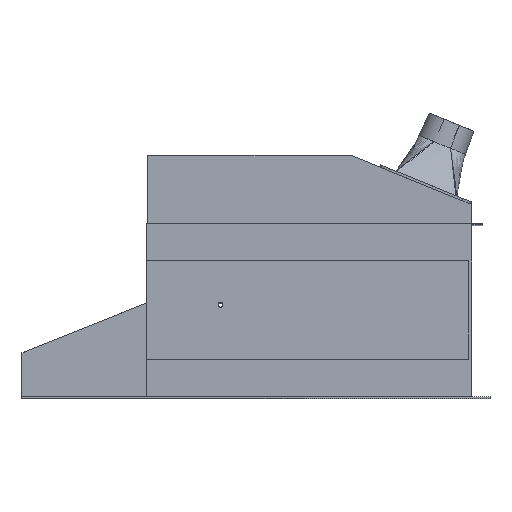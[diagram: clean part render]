
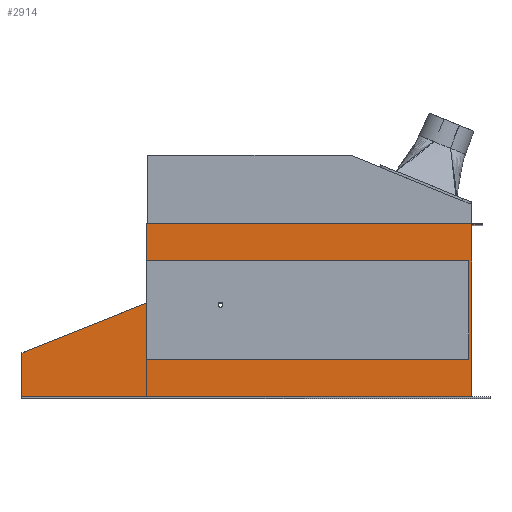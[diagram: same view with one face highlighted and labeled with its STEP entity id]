
A CAD part, top view. The second image highlights one B-rep face of the part: STEP entity #2914.
In plain terms, the highlighted planar face has unit normal (0, 0, 1).
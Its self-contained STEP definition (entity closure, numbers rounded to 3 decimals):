
#558 = LINE ( 'NONE', #53805, #52076 ) ;
#874 = CARTESIAN_POINT ( 'NONE',  ( 537.485, 174.896, 443. ) ) ;
#1126 = ORIENTED_EDGE ( 'NONE', *, *, #29761, .F. ) ;
#2628 = DIRECTION ( 'NONE',  ( -0.928, -0.371, 0. ) ) ;
#2670 = CARTESIAN_POINT ( 'NONE',  ( 559.485, 0., 443. ) ) ;
#2890 = EDGE_CURVE ( 'NONE', #13630, #7284, #558, .T. ) ;
#2914 = ADVANCED_FACE ( 'NONE', ( #38961 ), #47605, .T. ) ;
#3364 = ORIENTED_EDGE ( 'NONE', *, *, #26472, .T. ) ;
#4039 = DIRECTION ( 'NONE',  ( 1., 0., 0. ) ) ;
#5234 = DIRECTION ( 'NONE',  ( -1., 0., 0. ) ) ;
#5375 = EDGE_CURVE ( 'NONE', #63719, #59876, #23355, .T. ) ;
#5969 = CARTESIAN_POINT ( 'NONE',  ( -375.515, -173.895, 443. ) ) ;
#6327 = VECTOR ( 'NONE', #17983, 1000. ) ;
#6389 = DIRECTION ( 'NONE',  ( -1., 0., 0. ) ) ;
#6504 = VERTEX_POINT ( 'NONE', #36036 ) ;
#7284 = VERTEX_POINT ( 'NONE', #29589 ) ;
#7927 = LINE ( 'NONE', #2670, #6327 ) ;
#8013 = LINE ( 'NONE', #39714, #59176 ) ;
#8108 = LINE ( 'NONE', #24546, #33153 ) ;
#8685 = ORIENTED_EDGE ( 'NONE', *, *, #28555, .T. ) ;
#9550 = EDGE_LOOP ( 'NONE', ( #28777, #22457, #46519, #3364, #9760, #41323, #8685, #1126, #36825, #31550, #47954, #54925 ) ) ;
#9760 = ORIENTED_EDGE ( 'NONE', *, *, #39756, .F. ) ;
#10515 = EDGE_CURVE ( 'NONE', #55152, #13547, #8013, .T. ) ;
#11202 = CARTESIAN_POINT ( 'NONE',  ( -375.515, -84.895, 443. ) ) ;
#11459 = DIRECTION ( 'NONE',  ( 0., -1., 0. ) ) ;
#13547 = VERTEX_POINT ( 'NONE', #49666 ) ;
#13630 = VERTEX_POINT ( 'NONE', #60934 ) ;
#14475 = CARTESIAN_POINT ( 'NONE',  ( 537.485, -173.895, 443. ) ) ;
#14689 = LINE ( 'NONE', #27669, #39553 ) ;
#16499 = EDGE_CURVE ( 'NONE', #29964, #44621, #39832, .T. ) ;
#16794 = CARTESIAN_POINT ( 'NONE',  ( -122.515, 176.605, 443. ) ) ;
#16871 = VERTEX_POINT ( 'NONE', #45169 ) ;
#17983 = DIRECTION ( 'NONE',  ( 0., -1., 0. ) ) ;
#19170 = VERTEX_POINT ( 'NONE', #19707 ) ;
#19707 = CARTESIAN_POINT ( 'NONE',  ( 559.485, 174.896, 443. ) ) ;
#19943 = CARTESIAN_POINT ( 'NONE',  ( 531.485, -97.895, 443. ) ) ;
#20264 = LINE ( 'NONE', #36996, #21830 ) ;
#21830 = VECTOR ( 'NONE', #27030, 1000. ) ;
#22457 = ORIENTED_EDGE ( 'NONE', *, *, #61899, .F. ) ;
#23165 = EDGE_CURVE ( 'NONE', #7284, #16871, #29453, .T. ) ;
#23355 = LINE ( 'NONE', #36300, #26443 ) ;
#23698 = VERTEX_POINT ( 'NONE', #41738 ) ;
#24546 = CARTESIAN_POINT ( 'NONE',  ( 531.485, -97.895, 443. ) ) ;
#26443 = VECTOR ( 'NONE', #11459, 1000. ) ;
#26472 = EDGE_CURVE ( 'NONE', #63719, #19170, #43662, .T. ) ;
#27030 = DIRECTION ( 'NONE',  ( 0., -1., 0. ) ) ;
#27669 = CARTESIAN_POINT ( 'NONE',  ( -22.521, 56.303, 443. ) ) ;
#28555 = EDGE_CURVE ( 'NONE', #29964, #6504, #20264, .T. ) ;
#28777 = ORIENTED_EDGE ( 'NONE', *, *, #10515, .T. ) ;
#29453 = LINE ( 'NONE', #19943, #31004 ) ;
#29509 = DIRECTION ( 'NONE',  ( 0., 1., 0. ) ) ;
#29585 = LINE ( 'NONE', #35241, #55841 ) ;
#29589 = CARTESIAN_POINT ( 'NONE',  ( -122.515, -97.895, 443. ) ) ;
#29761 = EDGE_CURVE ( 'NONE', #23698, #6504, #29585, .T. ) ;
#29964 = VERTEX_POINT ( 'NONE', #16794 ) ;
#31004 = VECTOR ( 'NONE', #54510, 1000. ) ;
#31178 = CARTESIAN_POINT ( 'NONE',  ( 559.485, 176.605, 443. ) ) ;
#31550 = ORIENTED_EDGE ( 'NONE', *, *, #23165, .F. ) ;
#33153 = VECTOR ( 'NONE', #29509, 1000. ) ;
#35241 = CARTESIAN_POINT ( 'NONE',  ( 531.485, 102.105, 443. ) ) ;
#36036 = CARTESIAN_POINT ( 'NONE',  ( -122.515, 102.105, 443. ) ) ;
#36069 = EDGE_CURVE ( 'NONE', #16871, #23698, #8108, .T. ) ;
#36300 = CARTESIAN_POINT ( 'NONE',  ( 537.485, 0., 443. ) ) ;
#36825 = ORIENTED_EDGE ( 'NONE', *, *, #36069, .F. ) ;
#36996 = CARTESIAN_POINT ( 'NONE',  ( -122.515, 0., 443. ) ) ;
#38961 = FACE_OUTER_BOUND ( 'NONE', #9550, .T. ) ;
#39553 = VECTOR ( 'NONE', #2628, 1000. ) ;
#39714 = CARTESIAN_POINT ( 'NONE',  ( -375.515, 0., 443. ) ) ;
#39756 = EDGE_CURVE ( 'NONE', #44621, #19170, #7927, .T. ) ;
#39832 = LINE ( 'NONE', #49366, #48338 ) ;
#41251 = VECTOR ( 'NONE', #6389, 1000. ) ;
#41323 = ORIENTED_EDGE ( 'NONE', *, *, #16499, .F. ) ;
#41738 = CARTESIAN_POINT ( 'NONE',  ( 531.485, 102.105, 443. ) ) ;
#42092 = VECTOR ( 'NONE', #44940, 1000. ) ;
#43662 = LINE ( 'NONE', #49891, #42092 ) ;
#44621 = VERTEX_POINT ( 'NONE', #31178 ) ;
#44680 = DIRECTION ( 'NONE',  ( 0., -1., 0. ) ) ;
#44940 = DIRECTION ( 'NONE',  ( 1., 0., 0. ) ) ;
#45169 = CARTESIAN_POINT ( 'NONE',  ( 531.485, -97.895, 443. ) ) ;
#46519 = ORIENTED_EDGE ( 'NONE', *, *, #5375, .F. ) ;
#47514 = DIRECTION ( 'NONE',  ( 1., 0., 0. ) ) ;
#47527 = DIRECTION ( 'NONE',  ( 0., 0., 1. ) ) ;
#47605 = PLANE ( 'NONE',  #60460 ) ;
#47746 = DIRECTION ( 'NONE',  ( 0., -1., 0. ) ) ;
#47949 = CARTESIAN_POINT ( 'NONE',  ( 0., 0., 443. ) ) ;
#47954 = ORIENTED_EDGE ( 'NONE', *, *, #2890, .F. ) ;
#48338 = VECTOR ( 'NONE', #4039, 1000. ) ;
#49366 = CARTESIAN_POINT ( 'NONE',  ( 0., 176.605, 443. ) ) ;
#49666 = CARTESIAN_POINT ( 'NONE',  ( -375.515, -173.895, 443. ) ) ;
#49891 = CARTESIAN_POINT ( 'NONE',  ( 0., 174.896, 443. ) ) ;
#52076 = VECTOR ( 'NONE', #47746, 1000. ) ;
#53805 = CARTESIAN_POINT ( 'NONE',  ( -122.515, -97.895, 443. ) ) ;
#54310 = LINE ( 'NONE', #5969, #41251 ) ;
#54510 = DIRECTION ( 'NONE',  ( 1., 0., 0. ) ) ;
#54925 = ORIENTED_EDGE ( 'NONE', *, *, #63921, .T. ) ;
#55152 = VERTEX_POINT ( 'NONE', #11202 ) ;
#55841 = VECTOR ( 'NONE', #5234, 1000. ) ;
#59176 = VECTOR ( 'NONE', #44680, 1000. ) ;
#59876 = VERTEX_POINT ( 'NONE', #14475 ) ;
#60460 = AXIS2_PLACEMENT_3D ( 'NONE', #47949, #47527, #47514 ) ;
#60934 = CARTESIAN_POINT ( 'NONE',  ( -122.515, 16.305, 443. ) ) ;
#61899 = EDGE_CURVE ( 'NONE', #59876, #13547, #54310, .T. ) ;
#63719 = VERTEX_POINT ( 'NONE', #874 ) ;
#63921 = EDGE_CURVE ( 'NONE', #13630, #55152, #14689, .T. ) ;
